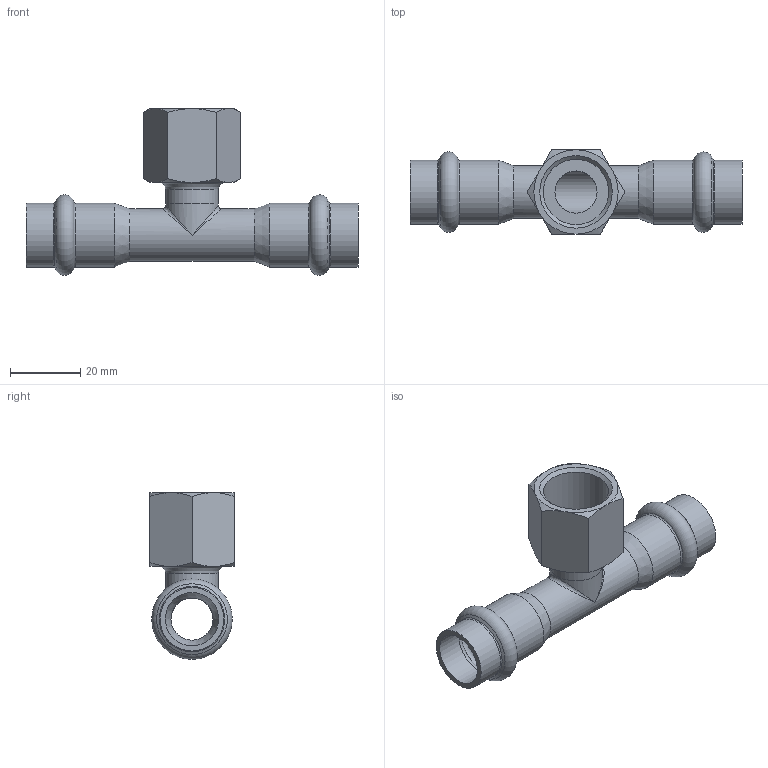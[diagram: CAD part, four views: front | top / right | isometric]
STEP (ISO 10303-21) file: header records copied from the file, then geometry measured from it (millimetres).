
FILE_DESCRIPTION((''),'2;1');
FILE_NAME('G:\Nirosan-Schmiedefeld\Technics\CAD\Bauteile VA\015\69130G151215(2).stp','2011-10-26T11:47:24',('herberg'),(''),'Autodesk Inventor 2009','Autodesk Inventor 2009','');
FILE_SCHEMA(('AUTOMOTIVE_DESIGN { 1 0 10303 214 1 1 1 1 }'));
Length unit declared in the file: millimetre
Products named in the file (3): 69130G151215(2); LM_6913015(2); IG1512(1)
Assembly tree (2 placements, depth 2):
  69130G151215(2)
    LM_6913015(2)
    IG1512(1)
Bounding box: 94.5 x 24 x 47.45 mm (x, y, z)
Volume: 12997.5 mm3; surface area: 14160.9 mm2
Topology: 2 solids, 2 shells, 66 faces, 146 edges, 77 vertices
Faces by surface type: cone 21, bspline 16, cylinder 13, plane 12, torus 4
Full cylindrical faces by diameter (mm): 12 x2, 15 x3, 15.15 x4, 18.15 x4
Entity records: 2502 total; most frequent: CARTESIAN_POINT 1306, DIRECTION 240, ORIENTED_EDGE 184, AXIS2_PLACEMENT_3D 117, EDGE_LOOP 112, EDGE_CURVE 92, VERTEX_POINT 70, FACE_OUTER_BOUND 66
